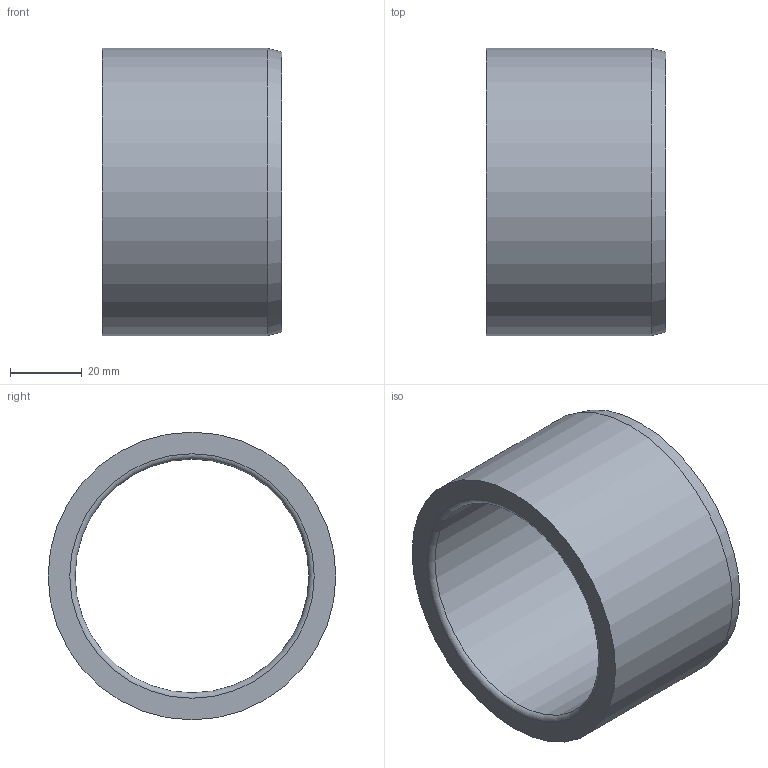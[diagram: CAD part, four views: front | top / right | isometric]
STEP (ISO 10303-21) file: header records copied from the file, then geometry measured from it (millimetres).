
FILE_DESCRIPTION(/* description */ ('Impex Ready, www.impex-ready.pl'),/* implementation_level */ '2;1');
FILE_NAME(/* name */ 'C:\Users\VIKKY\Nextcloud\SM\projekt 10 - części na stronę internetową\Pliki_3D_new\306 Tuleje BG04\306_BG04_STEP\BG04.658050.ipt.step',/* time_stamp */ '2021-12-17T16:36:47+01:00',/* author */ ('SM'),/* organization */ (''),/* preprocessor_version */ 'ST-DEVELOPER v18.1',/* originating_system */ 'Autodesk Inventor 2021',/* authorisation */ '');
FILE_SCHEMA (('AUTOMOTIVE_DESIGN { 1 0 10303 214 3 1 1 }'));
Length unit declared in the file: millimetre
Products named in the file (1): BG04.658050
Bounding box: 50 x 80 x 80 mm (x, y, z)
Volume: 84678.9 mm3; surface area: 25687.9 mm2
Topology: 1 solids, 1 shells, 7 faces, 14 edges, 9 vertices
Faces by surface type: torus 2, cylinder 2, plane 2, cone 1
Full cylindrical faces by diameter (mm): 65 x1, 80 x1
Entity records: 261 total; most frequent: DIRECTION 41, CARTESIAN_POINT 31, ORIENTED_EDGE 28, AXIS2_PLACEMENT_3D 19, EDGE_CURVE 14, CIRCLE 11, EDGE_LOOP 9, VERTEX_POINT 9
